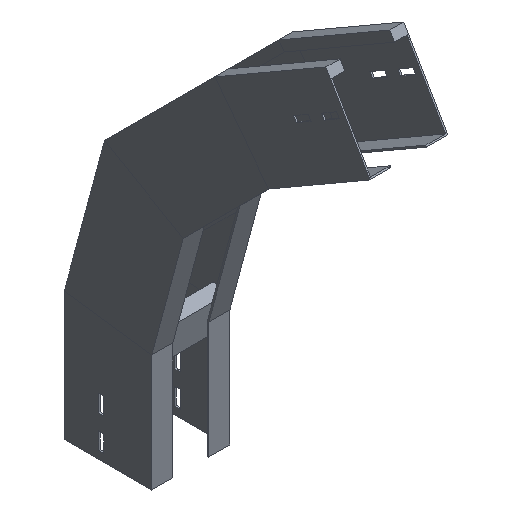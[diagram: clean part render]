
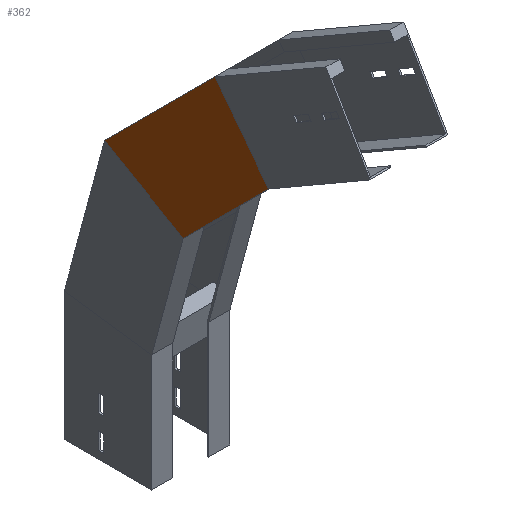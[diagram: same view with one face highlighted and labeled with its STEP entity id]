
A CAD part, isometric view. The second image highlights one B-rep face of the part: STEP entity #362.
In plain terms, the highlighted planar face has unit normal (-1, 0, 0) as drawn and (1, 0, 0) by its records, which use the part's own axes.
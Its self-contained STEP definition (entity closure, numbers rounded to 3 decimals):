
#3 = CARTESIAN_POINT ( 'NONE',  ( 0., 60.748, 357.953 ) ) ;
#27 = CARTESIAN_POINT ( 'NONE',  ( 0., -40.117, 299.719 ) ) ;
#90 = ORIENTED_EDGE ( 'NONE', *, *, #1208, .F. ) ;
#132 = ORIENTED_EDGE ( 'NONE', *, *, #781, .F. ) ;
#144 = VECTOR ( 'NONE', #239, 1000. ) ;
#152 = VERTEX_POINT ( 'NONE', #554 ) ;
#216 = ORIENTED_EDGE ( 'NONE', *, *, #1504, .T. ) ;
#239 = DIRECTION ( 'NONE',  ( 0., -0.991, -0.131 ) ) ;
#296 = EDGE_CURVE ( 'NONE', #1095, #514, #1608, .T. ) ;
#362 = ADVANCED_FACE ( 'NONE', ( #619 ), #600, .T. ) ;
#394 = VECTOR ( 'NONE', #1159, 1000. ) ;
#411 = LINE ( 'NONE', #1432, #995 ) ;
#473 = ORIENTED_EDGE ( 'NONE', *, *, #296, .T. ) ;
#514 = VERTEX_POINT ( 'NONE', #27 ) ;
#554 = CARTESIAN_POINT ( 'NONE',  ( 0., 0., 150. ) ) ;
#568 = EDGE_LOOP ( 'NONE', ( #216, #473, #132, #90 ) ) ;
#600 = PLANE ( 'NONE',  #601 ) ;
#601 = AXIS2_PLACEMENT_3D ( 'NONE', #1091, #1636, #730 ) ;
#619 = FACE_OUTER_BOUND ( 'NONE', #568, .T. ) ;
#690 = CARTESIAN_POINT ( 'NONE',  ( 0., 112.5, 164.811 ) ) ;
#730 = DIRECTION ( 'NONE',  ( 0., 0., -1. ) ) ;
#781 = EDGE_CURVE ( 'NONE', #152, #514, #1297, .T. ) ;
#791 = LINE ( 'NONE', #1000, #144 ) ;
#916 = DIRECTION ( 'NONE',  ( 0., -0.259, 0.966 ) ) ;
#995 = VECTOR ( 'NONE', #916, 1000. ) ;
#1000 = CARTESIAN_POINT ( 'NONE',  ( 0., -19.411, 147.444 ) ) ;
#1091 = CARTESIAN_POINT ( 'NONE',  ( 0., 4.243, 134.167 ) ) ;
#1095 = VERTEX_POINT ( 'NONE', #3 ) ;
#1159 = DIRECTION ( 'NONE',  ( 0., -0.259, 0.966 ) ) ;
#1208 = EDGE_CURVE ( 'NONE', #1269, #152, #791, .T. ) ;
#1231 = VECTOR ( 'NONE', #1503, 1000. ) ;
#1269 = VERTEX_POINT ( 'NONE', #690 ) ;
#1297 = LINE ( 'NONE', #1553, #394 ) ;
#1432 = CARTESIAN_POINT ( 'NONE',  ( 0., 112.909, 163.284 ) ) ;
#1503 = DIRECTION ( 'NONE',  ( 0., -0.866, -0.5 ) ) ;
#1504 = EDGE_CURVE ( 'NONE', #1269, #1095, #411, .T. ) ;
#1553 = CARTESIAN_POINT ( 'NONE',  ( 0., 4.243, 134.167 ) ) ;
#1608 = LINE ( 'NONE', #1616, #1231 ) ;
#1616 = CARTESIAN_POINT ( 'NONE',  ( 0., -78.533, 277.539 ) ) ;
#1636 = DIRECTION ( 'NONE',  ( 1., 0., 0. ) ) ;
